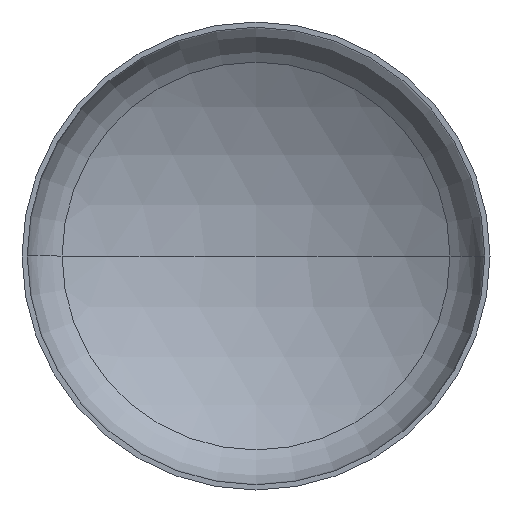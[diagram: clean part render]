
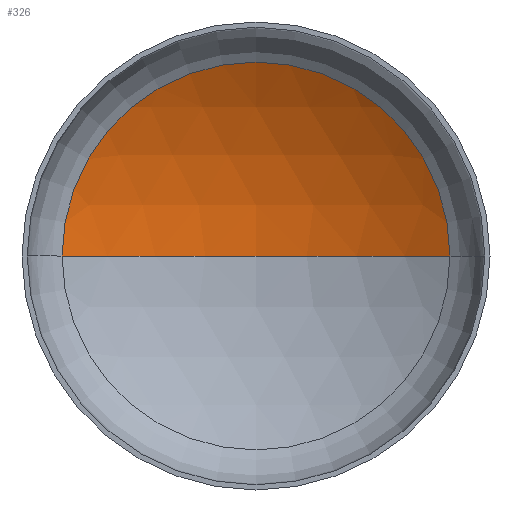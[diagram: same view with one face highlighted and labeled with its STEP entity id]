
A CAD part, front view. The second image highlights one B-rep face of the part: STEP entity #326.
In plain terms, the highlighted spherical face has radius 284 mm.
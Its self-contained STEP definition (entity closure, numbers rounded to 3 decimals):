
#8 = EDGE_CURVE ( 'NONE', #34, #166, #150, .T. ) ;
#24 = EDGE_LOOP ( 'NONE', ( #120, #49, #391 ) ) ;
#34 = VERTEX_POINT ( 'NONE', #153 ) ;
#38 = EDGE_CURVE ( 'NONE', #56, #34, #239, .T. ) ;
#39 = EDGE_CURVE ( 'NONE', #56, #166, #126, .T. ) ;
#49 = ORIENTED_EDGE ( 'NONE', *, *, #38, .T. ) ;
#56 = VERTEX_POINT ( 'NONE', #170 ) ;
#99 = DIRECTION ( 'NONE',  ( 0., 0., -1. ) ) ;
#120 = ORIENTED_EDGE ( 'NONE', *, *, #39, .F. ) ;
#126 = CIRCLE ( 'NONE', #267, 284. ) ;
#130 = AXIS2_PLACEMENT_3D ( 'NONE', #312, #303, #302 ) ;
#147 = AXIS2_PLACEMENT_3D ( 'NONE', #226, #99, #297 ) ;
#150 = CIRCLE ( 'NONE', #130, 147.333 ) ;
#153 = CARTESIAN_POINT ( 'NONE',  ( 147.333, 67.02, 0. ) ) ;
#157 = DIRECTION ( 'NONE',  ( 0., 0., 1. ) ) ;
#161 = DIRECTION ( 'NONE',  ( 1., 0., 0. ) ) ;
#165 = CARTESIAN_POINT ( 'NONE',  ( 0., -175.774, 0. ) ) ;
#166 = VERTEX_POINT ( 'NONE', #331 ) ;
#170 = CARTESIAN_POINT ( 'NONE',  ( 0., 108.226, 0. ) ) ;
#174 = DIRECTION ( 'NONE',  ( -1., 0., 0. ) ) ;
#226 = CARTESIAN_POINT ( 'NONE',  ( 0., -175.774, 0. ) ) ;
#239 = CIRCLE ( 'NONE', #251, 284. ) ;
#251 = AXIS2_PLACEMENT_3D ( 'NONE', #288, #287, #174 ) ;
#264 = FACE_OUTER_BOUND ( 'NONE', #24, .T. ) ;
#267 = AXIS2_PLACEMENT_3D ( 'NONE', #165, #157, #161 ) ;
#287 = DIRECTION ( 'NONE',  ( 0., 0., -1. ) ) ;
#288 = CARTESIAN_POINT ( 'NONE',  ( 0., -175.774, 0. ) ) ;
#297 = DIRECTION ( 'NONE',  ( -1., 0., 0. ) ) ;
#302 = DIRECTION ( 'NONE',  ( 1., 0., 0. ) ) ;
#303 = DIRECTION ( 'NONE',  ( 0., -1., 0. ) ) ;
#312 = CARTESIAN_POINT ( 'NONE',  ( 0., 67.02, 0. ) ) ;
#326 = ADVANCED_FACE ( 'NONE', ( #264 ), #333, .F. ) ;
#331 = CARTESIAN_POINT ( 'NONE',  ( -147.333, 67.02, 0. ) ) ;
#333 = SPHERICAL_SURFACE ( 'NONE', #147, 284. ) ;
#391 = ORIENTED_EDGE ( 'NONE', *, *, #8, .T. ) ;
